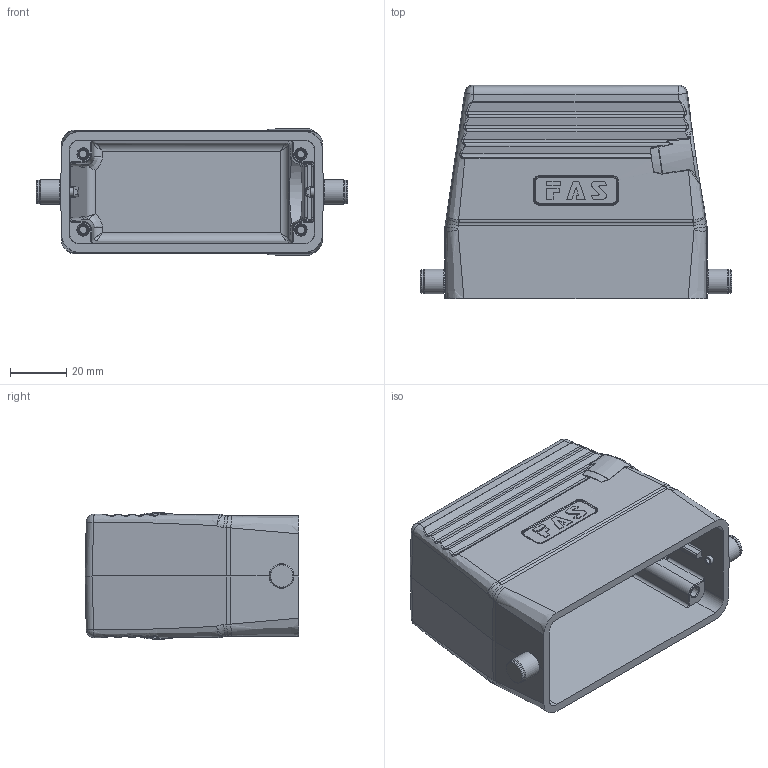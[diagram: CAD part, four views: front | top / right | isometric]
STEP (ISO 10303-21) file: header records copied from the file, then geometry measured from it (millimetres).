
FILE_DESCRIPTION (( 'STEP AP203' ), '1' );
FILE_NAME ('H16B-TSH-RO-M32.STEP', '2023-06-07T08:44:59', ( '' ), ( '' ), 'SwSTEP 2.0', 'SolidWorks 2016', '' );
FILE_SCHEMA (( 'CONFIG_CONTROL_DESIGN' ));
Length unit declared in the file: millimetre
Products named in the file (1): H16B-TSH-RO-M32
Bounding box: 110.8 x 76 x 45 mm (x, y, z)
Volume: 89755.4 mm3; surface area: 42704.1 mm2
Topology: 1 solids, 3 shells, 516 faces, 1287 edges, 796 vertices
Faces by surface type: cylinder 155, bspline 148, plane 147, cone 31, torus 18, sphere 17
Full cylindrical faces by diameter (mm): 2 x2, 3 x2, 4.8 x2, 5 x2, 8.5 x2, 8.8 x2, 30.5 x1
Entity records: 27311 total; most frequent: CARTESIAN_POINT 17607, ORIENTED_EDGE 2390, DIRECTION 1311, EDGE_CURVE 1195, VERTEX_POINT 757, B_SPLINE_CURVE_WITH_KNOTS 608, EDGE_LOOP 576, FACE_OUTER_BOUND 520
